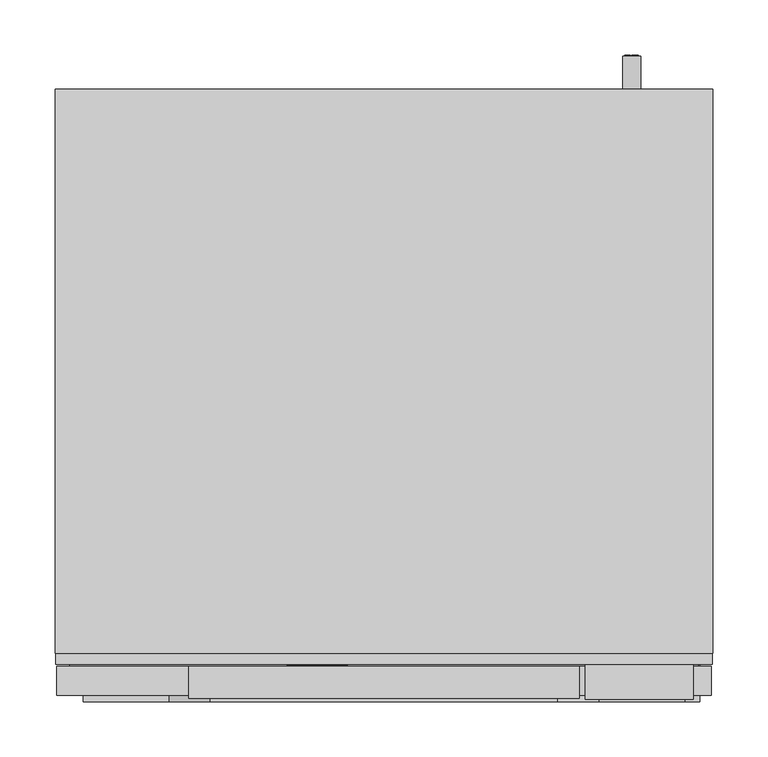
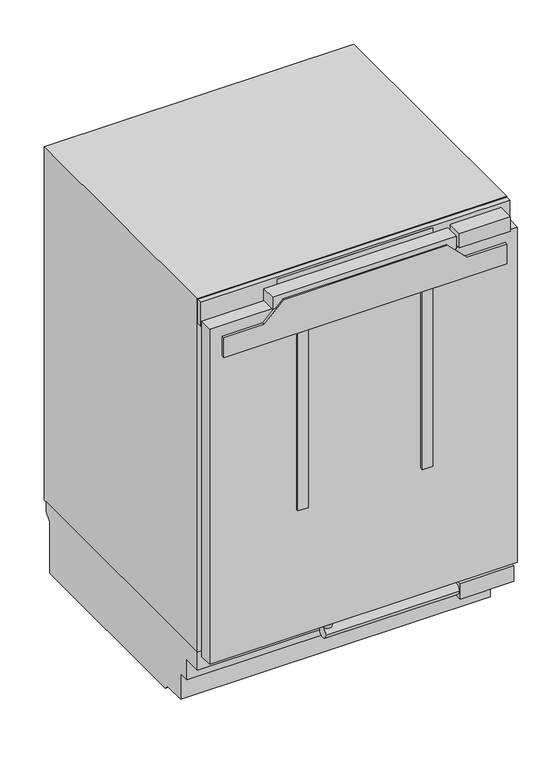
"""IFC4 building model written with IfcOpenShell, lengths in millimetres: proxy geometry, 12519190_EU1_KU7135C : 36713510_EU1_12519190_KU7135C."""

from ifc_helpers import new_model, si_unit, point, frame, frame_2d, origin, origin_with_axes, place, context, project, spatial, polyline, circle_curve, ellipse_curve, trimmed, segment, composite_curve, outline, extrude, faceted_brep, source, transform, mapped, element, save
from ifc_brep_helpers import plane_surface, cylinder_surface, revolved_surface, extruded_surface, advanced_brep


def specialty_equipment_4b23c88b(model_context):
    return source(origin(), model_context, "Body", "SolidModel", [
        extrude(outline(polyline([(835.9349293, -88.017), (835.9349293, -86.928), (829.9139293, -86.928), (829.9139293, -88.017), (828.4019293, -88.017), (828.4019293, -84.057), (829.9139293, -84.057), (829.9139293, -85.137), (833.7360541, -85.137), (828.4019293, -81.114), (833.8421516, -77.073), (829.9139293, -77.073), (829.9139293, -78.18), (828.4019293, -78.18), (828.4019293, -70.998), (829.9139293, -70.998), (829.9139293, -72.141), (835.9349293, -72.141), (835.9349293, -70.998), (837.4019293, -70.998), (837.4019293, -76.479), (834.0269293, -79.107), (837.4019293, -81.744), (837.4019293, -88.017), (835.9349293, -88.017)])), frame((0.0, 33.1, 0.0), z_axis=(0.0, 1.0, 0.0), x_axis=(0.0, 0.0, 1.0)), (0.0, 0.0, 1.0), 1.0),
        extrude(outline(polyline([(835.9349293, -51.495), (835.9349293, -50.415), (829.9139293, -50.415), (829.9139293, -51.495), (828.4019293, -51.495), (828.4019293, -44.196), (829.9139293, -44.196), (829.9139293, -45.303), (837.4019293, -45.303), (837.4019293, -51.495), (835.9349293, -51.495)])), frame((0.0, 33.1, 0.0), z_axis=(0.0, 1.0, 0.0), x_axis=(0.0, 0.0, 1.0)), (0.0, 0.0, 1.0), 1.0),
        extrude(outline(polyline([(836.8709293, -67.857), (835.4129293, -67.173), (836.8349293, -64.122), (838.2929293, -64.797), (836.8709293, -67.857)])), frame((0.0, 33.1, 0.0), z_axis=(0.0, 1.0, 0.0), x_axis=(0.0, 0.0, 1.0)), (0.0, 0.0, 1.0), 1.0),
        extrude(outline(polyline([(835.2149293, -70.08), (833.6039293, -70.08), (833.6039293, -69.009), (829.9139293, -69.009), (829.9139293, -70.08), (828.4019293, -70.08), (828.4019293, -62.979), (829.9139293, -62.979), (829.9139293, -64.023), (835.2149293, -64.023), (835.2149293, -70.08)])), frame((0.0, 33.1, 0.0), z_axis=(0.0, 1.0, 0.0), x_axis=(0.0, 0.0, 1.0)), (0.0, 0.0, 1.0), 1.0),
        advanced_brep(
        [(-58.02, 33.1, 830.5349293), (-58.02, 33.1, 831.4439293), (-51.999, 33.1, 831.4439293), (-62.475, 33.1, 831.4439293), (-60.0, 33.1, 828.4019293), (-52.152, 33.1, 830.5349293), (-54.87, 33.1, 830.5349293), (-57.012, 33.1, 829.5269293), (-58.02, 33.1, 832.5959293), (-58.02, 33.1, 833.5769293), (-56.481, 33.1, 833.5769293), (-56.481, 33.1, 832.5959293), (-58.02, 34.1, 830.5349293), (-57.012, 34.1, 829.5269293), (-54.87, 34.1, 830.5349293), (-52.152, 34.1, 830.5349293), (-60.0, 34.1, 828.4019293), (-62.475, 34.1, 831.4439293), (-51.999, 34.1, 831.4439293), (-58.02, 34.1, 831.4439293), (-58.02, 34.1, 832.5959293), (-56.481, 34.1, 832.5959293), (-56.481, 34.1, 833.5769293), (-58.02, 34.1, 833.5769293)],
        [
            (0, 1),
            (1, 2),
            (2, 3, ellipse_curve(frame((-57.237, 33.1, 831.4439293), z_axis=(0.0, -1.0, 0.0), x_axis=(-1.0, 0.0, 0.0)), 5.238, 4.329)),
            (3, 4, circle_curve(frame((-58.9919509, 33.1, 831.7499293), z_axis=(0.0, -1.0, 0.0), x_axis=(0.0, 0.0, -1.0)), 3.4964649)),
            (4, 5, circle_curve(frame((-57.3418572, 33.1, 834.1259293), z_axis=(0.0, -1.0, 0.0), x_axis=(0.0, 0.0, -1.0)), 6.3110933)),
            (5, 6),
            (6, 7, circle_curve(frame((-56.5720588, 33.1, 831.3719293), z_axis=(0.0, 1.0, 0.0), x_axis=(0.0, 0.0, -1.0)), 1.896727)),
            (7, 0, circle_curve(frame((-57.012, 33.1, 830.5349293), z_axis=(0.0, 1.0, 0.0), x_axis=(0.0, 0.0, -1.0)), 1.008)),
            (8, 9),
            (9, 10, circle_curve(frame((-57.2505, 33.1, 833.5769293), z_axis=(0.0, 1.0, 0.0), x_axis=(0.0, 0.0, -1.0)), 0.7695)),
            (10, 11),
            (11, 8),
            (12, 13, circle_curve(frame((-57.012, 34.1, 830.5349293), z_axis=(0.0, -1.0, 0.0), x_axis=(0.0, 0.0, -1.0)), 1.008)),
            (13, 14, circle_curve(frame((-56.5720588, 34.1, 831.3719293), z_axis=(0.0, -1.0, 0.0), x_axis=(0.0, 0.0, -1.0)), 1.896727)),
            (14, 15),
            (15, 16, circle_curve(frame((-57.3418572, 34.1, 834.1259293), z_axis=(0.0, 1.0, 0.0), x_axis=(0.0, 0.0, -1.0)), 6.3110933)),
            (16, 17, circle_curve(frame((-58.9919509, 34.1, 831.7499293), z_axis=(0.0, 1.0, 0.0), x_axis=(0.0, 0.0, -1.0)), 3.4964649)),
            (17, 18, ellipse_curve(frame((-57.237, 34.1, 831.4439293), z_axis=(0.0, 1.0, 0.0), x_axis=(-1.0, 0.0, 0.0)), 5.238, 4.329)),
            (18, 19),
            (19, 12),
            (20, 21),
            (21, 22),
            (22, 23, circle_curve(frame((-57.2505, 34.1, 833.5769293), z_axis=(0.0, -1.0, 0.0), x_axis=(0.0, 0.0, -1.0)), 0.7695)),
            (23, 20),
            (0, 12),
            (19, 1),
            (18, 2),
            (5, 15),
            (14, 6),
            (17, 3),
            (13, 7),
            (16, 4),
            (8, 20),
            (23, 9),
            (22, 10),
            (21, 11),
        ],
        [
            plane_surface(frame((-58.02, 33.1, 831.4439293), z_axis=(0.0, -1.0, 0.0), x_axis=(0.0, 0.0, 1.0))),
            plane_surface(frame((-58.02, 34.1, 831.4439293), z_axis=(0.0, 1.0, 0.0), x_axis=(0.0, 0.0, -1.0))),
            plane_surface(frame((-58.02, 33.1, 830.5349293), z_axis=(1.0, 0.0, 0.0), x_axis=(0.0, 1.0, 0.0))),
            plane_surface(frame((-58.02, 33.1, 831.4439293), z_axis=(0.0, 0.0, -1.0), x_axis=(0.0, 1.0, 0.0))),
            plane_surface(frame((-52.152, 33.1, 830.5349293), z_axis=(0.0, 0.0, 1.0), x_axis=(0.0, 1.0, 0.0))),
            extruded_surface(trimmed(ellipse_curve(frame((-57.237, 35.1, 831.4439293), z_axis=(0.0, -1.0, 0.0), x_axis=(-1.0, 0.0, 0.0)), 5.238, 4.329), [point((-51.999, 35.1, 831.4439293))], [point((-62.475, 35.1, 831.4439293))], True, "CARTESIAN"), (0.0, -1.0, 0.0), 1.0),
            revolved_surface(polyline([(-56.5720588, 34.1, 829.4752023), (-56.5720588, 33.1, 829.4752023)]), (-56.5720588, 34.1, 831.3719293), (0.0, 1.0, 0.0)),
            revolved_surface(polyline([(-57.012, 34.1, 829.5269293), (-57.012, 33.1, 829.5269293)]), (-57.012, 34.1, 830.5349293), (0.0, 1.0, 0.0)),
            cylinder_surface(frame((-58.9919509, 34.1, 831.7499293), z_axis=(0.0, -1.0, 0.0), x_axis=(0.0, 0.0, -1.0)), 3.4964649),
            cylinder_surface(frame((-57.3418572, 34.1, 834.1259293), z_axis=(0.0, -1.0, 0.0), x_axis=(0.0, 0.0, -1.0)), 6.3110933),
            plane_surface(frame((-58.02, 33.1, 832.5959293), z_axis=(1.0, 0.0, 0.0), x_axis=(0.0, 1.0, 0.0))),
            revolved_surface(polyline([(-57.2505, 34.1, 832.8074293), (-57.2505, 33.1, 832.8074293)]), (-57.2505, 34.1, 833.5769293), (0.0, 1.0, 0.0)),
            plane_surface(frame((-56.481, 33.1, 833.5769293), z_axis=(-1.0, 0.0, 0.0), x_axis=(0.0, 1.0, 0.0))),
            plane_surface(frame((-56.481, 33.1, 832.5959293), z_axis=(0.0, 0.0, 1.0), x_axis=(0.0, 1.0, 0.0))),
        ],
        [
            (0, [[1, 2, 3, 4, 5, 6, 7, 8], [9, 10, 11, 12]]),
            (1, [[13, 14, 15, 16, 17, 18, 19, 20], [21, 22, 23, 24]]),
            (2, [[-1, 25, -20, 26]]),
            (3, [[-2, -26, -19, 27]]),
            (4, [[-6, 28, -15, 29]]),
            (5, [[-3, -27, -18, 30]]),
            (6, [[-7, -29, -14, 31]]),
            (7, [[-8, -31, -13, -25]]),
            (8, [[-4, -30, -17, 32]]),
            (9, [[-5, -32, -16, -28]]),
            (10, [[-9, 33, -24, 34]]),
            (11, [[-10, -34, -23, 35]]),
            (12, [[-11, -35, -22, 36]]),
            (13, [[-12, -36, -21, -33]]),
        ],
    ),
        advanced_brep(
        [(-39.237, 33.1, 830.5349293), (-39.237, 33.1, 831.4439293), (-33.216, 33.1, 831.4439293), (-43.692, 33.1, 831.4439293), (-41.217, 33.1, 828.4019293), (-33.369, 33.1, 830.5349293), (-36.087, 33.1, 830.5349293), (-38.229, 33.1, 829.5269293), (-39.237, 33.1, 832.5959293), (-39.237, 33.1, 833.5769293), (-37.698, 33.1, 833.5769293), (-37.698, 33.1, 832.5959293), (-39.237, 34.1, 830.5349293), (-38.229, 34.1, 829.5269293), (-36.087, 34.1, 830.5349293), (-33.369, 34.1, 830.5349293), (-41.217, 34.1, 828.4019293), (-43.692, 34.1, 831.4439293), (-33.216, 34.1, 831.4439293), (-39.237, 34.1, 831.4439293), (-39.237, 34.1, 832.5959293), (-37.698, 34.1, 832.5959293), (-37.698, 34.1, 833.5769293), (-39.237, 34.1, 833.5769293)],
        [
            (0, 1),
            (1, 2),
            (2, 3, ellipse_curve(frame((-38.454, 33.1, 831.4439293), z_axis=(0.0, -1.0, 0.0), x_axis=(-1.0, 0.0, 0.0)), 5.238, 4.329)),
            (3, 4, circle_curve(frame((-40.2089509, 33.1, 831.7499293), z_axis=(0.0, -1.0, 0.0), x_axis=(0.0, 0.0, -1.0)), 3.4964649)),
            (4, 5, circle_curve(frame((-38.5588572, 33.1, 834.1259293), z_axis=(0.0, -1.0, 0.0), x_axis=(0.0, 0.0, -1.0)), 6.3110933)),
            (5, 6),
            (6, 7, circle_curve(frame((-37.7890588, 33.1, 831.3719293), z_axis=(0.0, 1.0, 0.0), x_axis=(0.0, 0.0, -1.0)), 1.896727)),
            (7, 0, circle_curve(frame((-38.229, 33.1, 830.5349293), z_axis=(0.0, 1.0, 0.0), x_axis=(0.0, 0.0, -1.0)), 1.008)),
            (8, 9),
            (9, 10, circle_curve(frame((-38.4675, 33.1, 833.5769293), z_axis=(0.0, 1.0, 0.0), x_axis=(0.0, 0.0, -1.0)), 0.7695)),
            (10, 11),
            (11, 8),
            (12, 13, circle_curve(frame((-38.229, 34.1, 830.5349293), z_axis=(0.0, -1.0, 0.0), x_axis=(0.0, 0.0, -1.0)), 1.008)),
            (13, 14, circle_curve(frame((-37.7890588, 34.1, 831.3719293), z_axis=(0.0, -1.0, 0.0), x_axis=(0.0, 0.0, -1.0)), 1.896727)),
            (14, 15),
            (15, 16, circle_curve(frame((-38.5588572, 34.1, 834.1259293), z_axis=(0.0, 1.0, 0.0), x_axis=(0.0, 0.0, -1.0)), 6.3110933)),
            (16, 17, circle_curve(frame((-40.2089509, 34.1, 831.7499293), z_axis=(0.0, 1.0, 0.0), x_axis=(0.0, 0.0, -1.0)), 3.4964649)),
            (17, 18, ellipse_curve(frame((-38.454, 34.1, 831.4439293), z_axis=(0.0, 1.0, 0.0), x_axis=(-1.0, 0.0, 0.0)), 5.238, 4.329)),
            (18, 19),
            (19, 12),
            (20, 21),
            (21, 22),
            (22, 23, circle_curve(frame((-38.4675, 34.1, 833.5769293), z_axis=(0.0, -1.0, 0.0), x_axis=(0.0, 0.0, -1.0)), 0.7695)),
            (23, 20),
            (0, 12),
            (19, 1),
            (18, 2),
            (5, 15),
            (14, 6),
            (17, 3),
            (13, 7),
            (16, 4),
            (8, 20),
            (23, 9),
            (22, 10),
            (21, 11),
        ],
        [
            plane_surface(frame((-39.237, 33.1, 831.4439293), z_axis=(0.0, -1.0, 0.0), x_axis=(0.0, 0.0, 1.0))),
            plane_surface(frame((-39.237, 34.1, 831.4439293), z_axis=(0.0, 1.0, 0.0), x_axis=(0.0, 0.0, -1.0))),
            plane_surface(frame((-39.237, 33.1, 830.5349293), z_axis=(1.0, 0.0, 0.0), x_axis=(0.0, 1.0, 0.0))),
            plane_surface(frame((-39.237, 33.1, 831.4439293), z_axis=(0.0, 0.0, -1.0), x_axis=(0.0, 1.0, 0.0))),
            plane_surface(frame((-33.369, 33.1, 830.5349293), z_axis=(0.0, 0.0, 1.0), x_axis=(0.0, 1.0, 0.0))),
            extruded_surface(trimmed(ellipse_curve(frame((-38.454, 35.1, 831.4439293), z_axis=(0.0, -1.0, 0.0), x_axis=(-1.0, 0.0, 0.0)), 5.238, 4.329), [point((-33.216, 35.1, 831.4439293))], [point((-43.692, 35.1, 831.4439293))], True, "CARTESIAN"), (0.0, -1.0, 0.0), 1.0),
            revolved_surface(polyline([(-37.7890588, 34.1, 829.4752023), (-37.7890588, 33.1, 829.4752023)]), (-37.7890588, 34.1, 831.3719293), (0.0, 1.0, 0.0)),
            revolved_surface(polyline([(-38.229, 34.1, 829.5269293), (-38.229, 33.1, 829.5269293)]), (-38.229, 34.1, 830.5349293), (0.0, 1.0, 0.0)),
            cylinder_surface(frame((-40.2089509, 34.1, 831.7499293), z_axis=(0.0, -1.0, 0.0), x_axis=(0.0, 0.0, -1.0)), 3.4964649),
            cylinder_surface(frame((-38.5588572, 34.1, 834.1259293), z_axis=(0.0, -1.0, 0.0), x_axis=(0.0, 0.0, -1.0)), 6.3110933),
            plane_surface(frame((-39.237, 33.1, 832.5959293), z_axis=(1.0, 0.0, 0.0), x_axis=(0.0, 1.0, 0.0))),
            revolved_surface(polyline([(-38.4675, 34.1, 832.8074293), (-38.4675, 33.1, 832.8074293)]), (-38.4675, 34.1, 833.5769293), (0.0, 1.0, 0.0)),
            plane_surface(frame((-37.698, 33.1, 833.5769293), z_axis=(-1.0, 0.0, 0.0), x_axis=(0.0, 1.0, 0.0))),
            plane_surface(frame((-37.698, 33.1, 832.5959293), z_axis=(0.0, 0.0, 1.0), x_axis=(0.0, 1.0, 0.0))),
        ],
        [
            (0, [[1, 2, 3, 4, 5, 6, 7, 8], [9, 10, 11, 12]]),
            (1, [[13, 14, 15, 16, 17, 18, 19, 20], [21, 22, 23, 24]]),
            (2, [[-1, 25, -20, 26]]),
            (3, [[-2, -26, -19, 27]]),
            (4, [[-6, 28, -15, 29]]),
            (5, [[-3, -27, -18, 30]]),
            (6, [[-7, -29, -14, 31]]),
            (7, [[-8, -31, -13, -25]]),
            (8, [[-4, -30, -17, 32]]),
            (9, [[-5, -32, -16, -28]]),
            (10, [[-9, 33, -24, 34]]),
            (11, [[-10, -34, -23, 35]]),
            (12, [[-11, -35, -22, 36]]),
            (13, [[-12, -36, -21, -33]]),
        ],
    ),
        extrude(outline(polyline([(150.0048218, 34.0937347), (-150.0048218, 34.0937347), (-150.0048218, 44.0), (150.0048218, 44.0), (150.0048218, 34.0937347)])), frame((0.0, 0.0, 813.2139282), z_axis=(0.0, 0.0, 1.0), x_axis=(1.0, 0.0, 0.0)), (0.0, 0.0, 1.0), 39.9850464),
        extrude(outline(polyline([(857.6989746, 298.0), (857.6989746, -298.0), (808.7051238, -298.0), (808.7051238, 298.0), (857.6989746, 298.0)]), holes=[polyline([(853.1989746, -150.0048218), (853.1989746, 150.0048218), (813.2139282, 150.0048218), (813.2139282, -150.0048218), (853.1989746, -150.0048218)])]), frame((0.0, 34.0937347, 0.0), z_axis=(0.0, 1.0, 0.0), x_axis=(0.0, 0.0, 1.0)), (0.0, 0.0, 1.0), 9.9062653),
        faceted_brep([(-298.5, 550.1, 137.8999939), (-298.5, 550.1, 117.6051112), (-298.5, 537.6, 105.1051112), (-298.5, 537.6, 0.0), (-298.5, 150.9682763, 0.0), (-298.5, 142.6506717, 8.3176046), (-298.5, 100.0, 8.3176046), (-298.5, 100.0, 60.7725754), (-298.5, 79.0216446, 60.7725754), (-298.5, 79.0216446, 101.8184894), (-298.5, 44.0, 101.8184894), (-298.5, 44.0, 137.8999939), (298.5, 550.1, 137.8999939), (298.5, 44.0, 137.8999939), (298.5, 44.0, 101.8184894), (298.5, 79.0216446, 101.8184894), (298.5, 79.0216446, 60.7725754), (298.5, 100.0, 60.7725754), (298.5, 100.0, 8.3176046), (298.5, 142.6506717, 8.3176046), (298.5, 150.9682763, 0.0), (298.5, 537.6, 0.0), (298.5, 537.6, 105.1051112), (298.5, 550.1, 117.6051112), (296.7000122, 463.8596389, 0.0), (256.5957336, 463.8596389, 0.0), (256.5957336, 399.1975098, 0.0), (296.7000122, 399.1975098, 0.0), (-296.7000122, 463.8596389, 0.0), (-296.7000122, 399.1975098, 0.0), (-256.5957336, 399.1975098, 0.0), (-256.5957336, 463.8596389, 0.0), (296.7000122, 463.8596389, 8.7371401), (296.7000122, 399.1975098, 8.7371401), (256.5957336, 399.1975098, 8.7371401), (256.5957336, 463.8596389, 8.7371401), (-296.7000122, 463.8596389, 8.7371401), (-256.5957336, 463.8596389, 8.7371401), (-256.5957336, 399.1975098, 8.7371401), (-296.7000122, 399.1975098, 8.7371401)], [[[0, 1, 2, 3, 4, 5, 6, 7, 8, 9, 10, 11]], [[12, 13, 14, 15, 16, 17, 18, 19, 20, 21, 22, 23]], [[0, 11, 13, 12]], [[11, 10, 14, 13]], [[10, 9, 15, 14]], [[9, 8, 16, 15]], [[8, 7, 17, 16]], [[7, 6, 18, 17]], [[6, 5, 19, 18]], [[5, 4, 20, 19]], [[4, 3, 21, 20], [24, 25, 26, 27], [28, 29, 30, 31]], [[3, 2, 22, 21]], [[2, 1, 23, 22]], [[1, 0, 12, 23]], [[32, 33, 34, 35]], [[36, 37, 38, 39]], [[32, 35, 25, 24]], [[35, 34, 26, 25]], [[34, 33, 27, 26]], [[33, 32, 24, 27]], [[36, 39, 29, 28]], [[39, 38, 30, 29]], [[38, 37, 31, 30]], [[37, 36, 28, 31]]]),
        faceted_brep([(298.5, 44.0, 859.0), (298.5, 44.0, 137.8999939), (298.5, 556.2, 137.8999939), (298.5, 556.2, 859.0), (-298.5, 44.0, 859.0), (-298.5, 556.2, 859.0), (-298.5, 556.2, 137.8999939), (-298.5, 44.0, 137.8999939), (263.0, 44.0, 759.0), (263.0, 44.0, 160.0), (-263.0, 44.0, 160.0), (-263.0, 44.0, 759.0), (263.0, 510.8638012, 160.0), (263.0, 510.8638012, 759.0), (-263.0, 510.8638012, 759.0), (-263.0, 510.8638012, 160.0)], [[[0, 1, 2, 3]], [[4, 5, 6, 7]], [[1, 0, 4, 7], [8, 9, 10, 11]], [[2, 1, 7, 6]], [[3, 2, 6, 5]], [[0, 3, 5, 4]], [[12, 13, 14, 15]], [[13, 12, 9, 8]], [[14, 13, 8, 11]], [[15, 14, 11, 10]], [[12, 15, 10, 9]]]),
        extrude(outline(polyline([(263.0, 510.8638012), (263.0, 339.3), (-263.0, 339.3), (-263.0, 510.8638012), (263.0, 510.8638012)])), frame((0.0, 0.0, 160.0), z_axis=(0.0, 0.0, 1.0), x_axis=(1.0, 0.0, 0.0)), (0.0, 0.0, 1.0), 61.8999939),
        extrude(outline(composite_curve([segment(trimmed(circle_curve(frame_2d((-270.8532135, 135.87603)), 15.7049948), [point((-286.5582083, 135.87603))], [point((-255.1482187, 135.87603))], False, "CARTESIAN"), True, "CONTINUOUS"), segment(trimmed(circle_curve(frame_2d((-270.8532135, 135.87603)), 15.7049948), [point((-255.1482187, 135.87603))], [point((-286.5582083, 135.87603))], False, "CARTESIAN"), True, "CONTINUOUS")], self_intersect=False)), origin_with_axes(), (0.0, 0.0, 1.0), 8.3176046),
        extrude(outline(composite_curve([segment(trimmed(circle_curve(frame_2d((270.8532135, 135.87603)), 15.7049948), [point((286.5582083, 135.87603))], [point((255.1482187, 135.87603))], False, "CARTESIAN"), True, "CONTINUOUS"), segment(trimmed(circle_curve(frame_2d((270.8532135, 135.87603)), 15.7049948), [point((255.1482187, 135.87603))], [point((286.5582083, 135.87603))], False, "CARTESIAN"), True, "CONTINUOUS")], self_intersect=False)), origin_with_axes(), (0.0, 0.0, 1.0), 8.3176046),
        extrude(outline(composite_curve([segment(trimmed(circle_curve(frame_2d((-275.822369, 437.7385329)), 16.0), [point((-291.822369, 437.7385329))], [point((-259.822369, 437.7385329))], False, "CARTESIAN"), True, "CONTINUOUS"), segment(trimmed(circle_curve(frame_2d((-275.822369, 437.7385329)), 16.0), [point((-259.822369, 437.7385329))], [point((-291.822369, 437.7385329))], False, "CARTESIAN"), True, "CONTINUOUS")], self_intersect=False)), origin_with_axes(), (0.0, 0.0, 1.0), 8.3176046),
        extrude(outline(composite_curve([segment(trimmed(circle_curve(frame_2d((275.822369, 437.7385329)), 16.0), [point((259.822369, 437.7385329))], [point((291.822369, 437.7385329))], False, "CARTESIAN"), True, "CONTINUOUS"), segment(trimmed(circle_curve(frame_2d((275.822369, 437.7385329)), 16.0), [point((291.822369, 437.7385329))], [point((259.822369, 437.7385329))], False, "CARTESIAN"), True, "CONTINUOUS")], self_intersect=False)), origin_with_axes(), (0.0, 0.0, 1.0), 8.3176046),
        extrude(outline(composite_curve([segment(trimmed(circle_curve(frame_2d((144.2460785, 224.8152695)), 8.0), [point((144.2460785, 216.8152695))], [point((144.2460785, 232.8152695))], False, "CARTESIAN"), True, "CONTINUOUS"), segment(trimmed(circle_curve(frame_2d((144.2460785, 224.8152695)), 8.0), [point((144.2460785, 232.8152695))], [point((144.2460785, 216.8152695))], False, "CARTESIAN"), True, "CONTINUOUS")], self_intersect=False)), frame((0.0, 556.2, 0.0), z_axis=(0.0, 1.0, 0.0), x_axis=(0.0, 0.0, 1.0)), (0.0, 0.0, 1.0), 30.0),
        extrude(outline(polyline([(140.2460785, 230.7170777), (148.2825833, 230.7170777), (148.2825833, 224.9408399), (147.2780202, 224.9408399), (147.2780202, 229.7125146), (144.8921828, 229.7125146), (144.8921828, 225.1919806), (143.8876197, 225.1919806), (143.8876197, 229.7125146), (141.2506416, 229.7125146), (141.2506416, 224.8152695), (140.2460785, 224.8152695), (140.2460785, 230.7170777)])), frame((0.0, 586.2, 0.0), z_axis=(0.0, 1.0, 0.0), x_axis=(0.0, 0.0, 1.0)), (0.0, 0.0, 1.0), 1.0),
        extrude(outline(polyline([(140.2460785, 223.3084248), (148.2825833, 223.3084248), (148.2825833, 222.3038617), (141.2506416, 222.3038617), (141.2506416, 218.2856093), (140.2460785, 218.2856093), (140.2460785, 223.3084248)])), frame((0.0, 586.2, 0.0), z_axis=(0.0, 1.0, 0.0), x_axis=(0.0, 0.0, 1.0)), (0.0, 0.0, 1.0), 1.0),
        extrude(outline(polyline([(280.7999573, 2.0229698), (182.5283813, 2.0229698), (182.5283813, 44.0), (280.7999573, 44.0), (280.7999573, 2.0229698)])), frame((0.0, 0.0, 820.0), z_axis=(0.0, 0.0, 1.0), x_axis=(1.0, 0.0, 0.0)), (0.0, 0.0, 1.0), 28.7067261),
        extrude(outline(polyline([(297.0, 6.0), (-297.0, 6.0), (-297.0, 32.0), (297.0, 32.0), (297.0, 6.0)])), frame((0.0, 0.0, 136.0), z_axis=(0.0, 0.0, 1.0), x_axis=(1.0, 0.0, 0.0)), (0.0, 0.0, 1.0), 684.0),
        extrude(outline(polyline([(285.0, 44.0), (285.0, 32.0), (-285.0, 32.0), (-285.0, 44.0), (285.0, 44.0)])), frame((0.0, 0.0, 148.5030441), z_axis=(0.0, 0.0, 1.0), x_axis=(1.0, 0.0, 0.0)), (0.0, 0.0, 1.0), 655.9969559),
        extrude(outline(polyline([(844.6210938, 177.3252429), (844.6210938, -177.3251393), (820.0, -177.3252429), (820.0, 177.3252429), (844.6210938, 177.3252429)])), frame((0.0, 3.0, 0.0), z_axis=(0.0, 1.0, 0.0), x_axis=(0.0, 0.0, 1.0)), (0.0, 0.0, 1.0), 29.0),
        extrude(outline(composite_curve([segment(trimmed(circle_curve(frame_2d((14.2130013, 118.3500061)), 10.647874), [point((3.5651273, 118.3500061))], [point((24.8608752, 118.3500061))], False, "CARTESIAN"), True, "CONTINUOUS"), segment(trimmed(circle_curve(frame_2d((14.2130013, 118.3500061)), 10.647874), [point((24.8608752, 118.3500061))], [point((3.5651273, 118.3500061))], False, "CARTESIAN"), True, "CONTINUOUS")], self_intersect=False)), frame((-73.8137398, 0.0, 0.0), z_axis=(1.0, 0.0, 0.0), x_axis=(0.0, 1.0, 0.0)), (0.0, 0.0, 1.0), 257.1515813),
        extrude(outline(composite_curve([segment(trimmed(circle_curve(frame_2d((-65.2000504, 14.2130013)), 8.0), [point((-73.2000504, 14.2130013))], [point((-57.2000504, 14.2130013))], False, "CARTESIAN"), True, "CONTINUOUS"), segment(trimmed(circle_curve(frame_2d((-65.2000504, 14.2130013)), 8.0), [point((-57.2000504, 14.2130013))], [point((-73.2000504, 14.2130013))], False, "CARTESIAN"), True, "CONTINUOUS")], self_intersect=False)), frame((0.0, 0.0, 128.9978801), z_axis=(0.0, 0.0, 1.0), x_axis=(1.0, 0.0, 0.0)), (0.0, 0.0, 1.0), 7.0021199),
        extrude(outline(polyline([(286.7815857, 0.0), (183.3378415, 0.0), (183.3378415, 44.0), (286.7815857, 44.0), (286.7815857, 0.0)])), frame((0.0, 0.0, 104.8), z_axis=(0.0, 0.0, 1.0), x_axis=(1.0, 0.0, 0.0)), (0.0, 0.0, 1.0), 31.2),
        extrude(outline(polyline([(797.315066, -195.1876874), (797.315066, -272.9755319), (756.8499888, -272.9755319), (756.8499888, 272.9755319), (797.315066, 272.9755319), (797.315066, 195.1876874), (834.938205, 157.5645484), (834.938205, -157.5645484), (797.315066, -195.1876874)])), frame((0.0, 0.0, 0.0), z_axis=(0.0, 1.0, 0.0), x_axis=(0.0, 0.0, 1.0)), (0.0, 0.0, 1.0), 6.0),
        extrude(outline(polyline([(-110.0, 0.0), (-130.0, 0.0), (-130.0, 6.0), (-110.0, 6.0), (-110.0, 0.0)])), frame((0.0, 0.0, 394.1054382), z_axis=(0.0, 0.0, 1.0), x_axis=(1.0, 0.0, 0.0)), (0.0, 0.0, 1.0), 362.7445505),
        extrude(outline(polyline([(130.0, 0.0), (110.0, 0.0), (110.0, 6.0), (130.0, 6.0), (130.0, 0.0)])), frame((0.0, 0.0, 394.1054382), z_axis=(0.0, 0.0, 1.0), x_axis=(1.0, 0.0, 0.0)), (0.0, 0.0, 1.0), 362.7445505),
    ])


if __name__ == "__main__":
    model = new_model("IFC4")
    model_context = context("Model", 3, world=origin())
    ifc_project = project(units=[si_unit("LENGTHUNIT", "METRE", prefix="MILLI")], contexts=[model_context])
    site = spatial("IfcSite", under=ifc_project)
    building = spatial("IfcBuilding", under=site)
    placement = place(None, origin())
    specialty_equipment_shape = specialty_equipment_4b23c88b(model_context)
    element("IfcBuildingElementProxy", 1, Name="12519190_EU1_KU7135C : 36713510_EU1_12519190_KU7135C", ObjectType="12519190_EU1_KU7135C : 36713510_EU1_12519190_KU7135C", at=placement, inside=building, context=model_context, shape_type="MappedRepresentation", body=[
        mapped(specialty_equipment_shape, transform((0.0, 0.0, 0.0), x_axis=(1.0, 0.0, 0.0), y_axis=(0.0, 1.0, 0.0), z_axis=(0.0, 0.0, 1.0))),
    ])
    save(model, "model.ifc")
